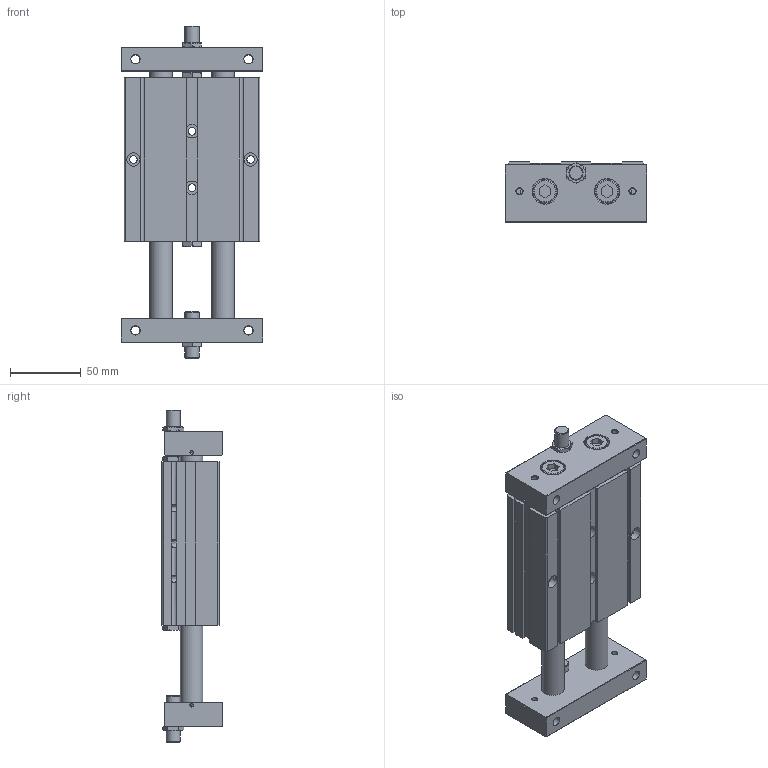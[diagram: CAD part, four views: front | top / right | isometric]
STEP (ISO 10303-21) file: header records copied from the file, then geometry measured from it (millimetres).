
FILE_DESCRIPTION((''),'2;1');
FILE_NAME('I:\3D電子目錄\氣缸\STU\STU\STU32\STU32x50.stp','2007-10-01T14:00:30',('Administrator'),(''),'Autodesk Inventor 11','Autodesk Inventor 11','');
FILE_SCHEMA(('AUTOMOTIVE_DESIGN { 1 0 10303 214 1 1 1 1 }'));
Length unit declared in the file: millimetre
Products named in the file (1): STU32
Bounding box: 100 x 42.5 x 235 mm (x, y, z)
Volume: 566279.8 mm3; surface area: 94174.2 mm2
Topology: 1 solids, 1 shells, 315 faces, 744 edges, 472 vertices
Faces by surface type: plane 145, cone 76, bspline 62, cylinder 28, torus 4
Full cylindrical faces by diameter (mm): 2.459 x2, 9.5 x4, 10 x4, 16 x6, 17.5 x4, 34 x2, 35.9 x2
Entity records: 9985 total; most frequent: CARTESIAN_POINT 3594, ORIENTED_EDGE 1220, DIRECTION 1212, EDGE_CURVE 610, EDGE_LOOP 518, AXIS2_PLACEMENT_3D 464, VERTEX_POINT 446, FACE_OUTER_BOUND 315
